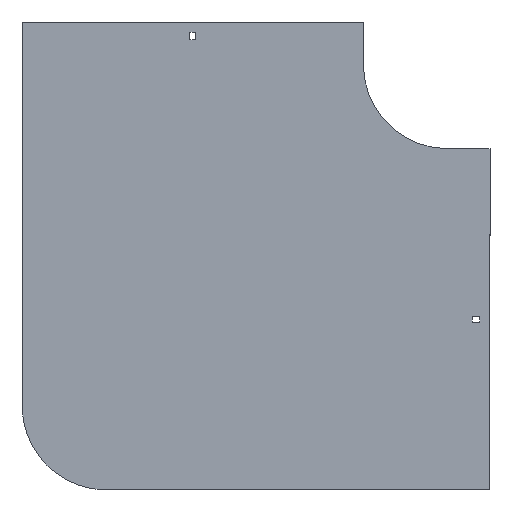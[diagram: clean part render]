
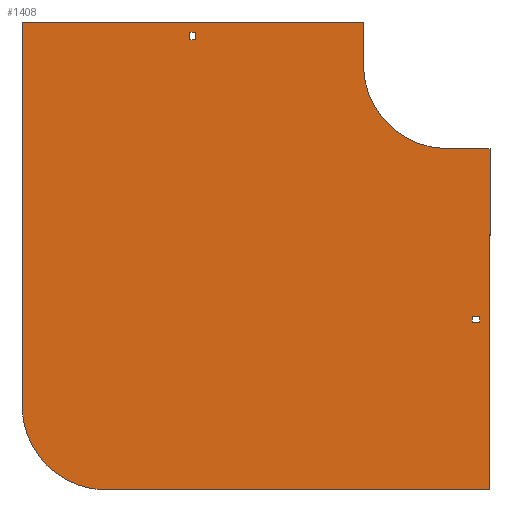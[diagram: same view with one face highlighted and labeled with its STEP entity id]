
A CAD part, front view. The second image highlights one B-rep face of the part: STEP entity #1408.
In plain terms, the highlighted planar face has unit normal (0, -1, 0).
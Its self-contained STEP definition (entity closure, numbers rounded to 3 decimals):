
#10 = VERTEX_POINT ( 'NONE', #506 ) ;
#51 = CARTESIAN_POINT ( 'NONE',  ( 38., 0., -298.75 ) ) ;
#70 = CARTESIAN_POINT ( 'NONE',  ( -404., 0., -404. ) ) ;
#108 = VERTEX_POINT ( 'NONE', #1904 ) ;
#109 = DIRECTION ( 'NONE',  ( -1., 0., 0. ) ) ;
#165 = ORIENTED_EDGE ( 'NONE', *, *, #548, .F. ) ;
#182 = ORIENTED_EDGE ( 'NONE', *, *, #720, .F. ) ;
#188 = VERTEX_POINT ( 'NONE', #1554 ) ;
#202 = LINE ( 'NONE', #979, #807 ) ;
#218 = EDGE_LOOP ( 'NONE', ( #182, #654, #1235, #931, #448, #732, #444, #769 ) ) ;
#235 = CARTESIAN_POINT ( 'NONE',  ( 0., 0., 0. ) ) ;
#267 = EDGE_CURVE ( 'NONE', #1619, #1256, #719, .T. ) ;
#270 = CARTESIAN_POINT ( 'NONE',  ( -298.75, 0., 29. ) ) ;
#287 = AXIS2_PLACEMENT_3D ( 'NONE', #1080, #296, #1670 ) ;
#292 = EDGE_CURVE ( 'NONE', #1179, #1190, #1358, .T. ) ;
#296 = DIRECTION ( 'NONE',  ( 0., -1., 0. ) ) ;
#304 = FACE_BOUND ( 'NONE', #1367, .T. ) ;
#338 = CARTESIAN_POINT ( 'NONE',  ( -305.25, 0., 29. ) ) ;
#340 = CARTESIAN_POINT ( 'NONE',  ( 29., 0., -305.25 ) ) ;
#355 = EDGE_CURVE ( 'NONE', #914, #188, #933, .T. ) ;
#359 = VECTOR ( 'NONE', #1734, 1000. ) ;
#360 = CARTESIAN_POINT ( 'NONE',  ( 0., 0., -100. ) ) ;
#444 = ORIENTED_EDGE ( 'NONE', *, *, #1043, .F. ) ;
#448 = ORIENTED_EDGE ( 'NONE', *, *, #1897, .F. ) ;
#457 = DIRECTION ( 'NONE',  ( 0., 0., 1. ) ) ;
#458 = LINE ( 'NONE', #608, #835 ) ;
#486 = AXIS2_PLACEMENT_3D ( 'NONE', #235, #1441, #1588 ) ;
#506 = CARTESIAN_POINT ( 'NONE',  ( 50., 0., -504. ) ) ;
#548 = EDGE_CURVE ( 'NONE', #1256, #1369, #996, .T. ) ;
#569 = ORIENTED_EDGE ( 'NONE', *, *, #1674, .T. ) ;
#571 = EDGE_CURVE ( 'NONE', #660, #914, #1702, .T. ) ;
#573 = CARTESIAN_POINT ( 'NONE',  ( 38., 0., -305.25 ) ) ;
#592 = DIRECTION ( 'NONE',  ( 0., 0., -1. ) ) ;
#596 = LINE ( 'NONE', #1204, #1870 ) ;
#608 = CARTESIAN_POINT ( 'NONE',  ( -504., 0., 50. ) ) ;
#609 = PLANE ( 'NONE',  #287 ) ;
#610 = DIRECTION ( 'NONE',  ( 1., 0., 0. ) ) ;
#611 = VECTOR ( 'NONE', #1170, 1000. ) ;
#636 = DIRECTION ( 'NONE',  ( 0., 0., -1. ) ) ;
#654 = ORIENTED_EDGE ( 'NONE', *, *, #678, .F. ) ;
#660 = VERTEX_POINT ( 'NONE', #270 ) ;
#678 = EDGE_CURVE ( 'NONE', #108, #1771, #988, .T. ) ;
#690 = DIRECTION ( 'NONE',  ( 0., 1., 0. ) ) ;
#719 = LINE ( 'NONE', #573, #1275 ) ;
#720 = EDGE_CURVE ( 'NONE', #1771, #1271, #458, .T. ) ;
#732 = ORIENTED_EDGE ( 'NONE', *, *, #292, .F. ) ;
#739 = VECTOR ( 'NONE', #748, 1000. ) ;
#748 = DIRECTION ( 'NONE',  ( -1., 0., 0. ) ) ;
#753 = VERTEX_POINT ( 'NONE', #1940 ) ;
#769 = ORIENTED_EDGE ( 'NONE', *, *, #805, .F. ) ;
#805 = EDGE_CURVE ( 'NONE', #1271, #753, #1206, .T. ) ;
#807 = VECTOR ( 'NONE', #1126, 1000. ) ;
#817 = CARTESIAN_POINT ( 'NONE',  ( 50., 0., -100. ) ) ;
#835 = VECTOR ( 'NONE', #1773, 1000. ) ;
#842 = EDGE_CURVE ( 'NONE', #1369, #1415, #1920, .T. ) ;
#879 = LINE ( 'NONE', #1609, #1390 ) ;
#894 = EDGE_CURVE ( 'NONE', #1415, #1619, #1034, .T. ) ;
#914 = VERTEX_POINT ( 'NONE', #1589 ) ;
#931 = ORIENTED_EDGE ( 'NONE', *, *, #1090, .F. ) ;
#933 = LINE ( 'NONE', #338, #1094 ) ;
#947 = DIRECTION ( 'NONE',  ( -1., 0., 0. ) ) ;
#961 = VECTOR ( 'NONE', #947, 1000. ) ;
#979 = CARTESIAN_POINT ( 'NONE',  ( 50., 0., -100. ) ) ;
#984 = ORIENTED_EDGE ( 'NONE', *, *, #1666, .T. ) ;
#988 = LINE ( 'NONE', #1152, #359 ) ;
#992 = ORIENTED_EDGE ( 'NONE', *, *, #355, .T. ) ;
#996 = LINE ( 'NONE', #1740, #739 ) ;
#1005 = VECTOR ( 'NONE', #636, 1000. ) ;
#1032 = CARTESIAN_POINT ( 'NONE',  ( 0., 0., -100. ) ) ;
#1034 = LINE ( 'NONE', #1214, #1857 ) ;
#1043 = EDGE_CURVE ( 'NONE', #753, #1179, #1491, .T. ) ;
#1067 = VERTEX_POINT ( 'NONE', #1259 ) ;
#1072 = FACE_OUTER_BOUND ( 'NONE', #218, .T. ) ;
#1080 = CARTESIAN_POINT ( 'NONE',  ( 0., 0., 0. ) ) ;
#1090 = EDGE_CURVE ( 'NONE', #10, #1929, #879, .T. ) ;
#1094 = VECTOR ( 'NONE', #1683, 1000. ) ;
#1103 = EDGE_LOOP ( 'NONE', ( #992, #984, #569, #1131 ) ) ;
#1116 = CARTESIAN_POINT ( 'NONE',  ( -305.25, 0., 29. ) ) ;
#1126 = DIRECTION ( 'NONE',  ( 0., 0., -1. ) ) ;
#1131 = ORIENTED_EDGE ( 'NONE', *, *, #571, .T. ) ;
#1143 = AXIS2_PLACEMENT_3D ( 'NONE', #70, #690, #1290 ) ;
#1152 = CARTESIAN_POINT ( 'NONE',  ( -504., 0., -404. ) ) ;
#1170 = DIRECTION ( 'NONE',  ( 1., 0., 0. ) ) ;
#1179 = VERTEX_POINT ( 'NONE', #360 ) ;
#1180 = CARTESIAN_POINT ( 'NONE',  ( 38., 0., -305.25 ) ) ;
#1190 = VERTEX_POINT ( 'NONE', #817 ) ;
#1204 = CARTESIAN_POINT ( 'NONE',  ( -305.25, 0., 38. ) ) ;
#1206 = LINE ( 'NONE', #1839, #1618 ) ;
#1214 = CARTESIAN_POINT ( 'NONE',  ( 29., 0., -305.25 ) ) ;
#1217 = LINE ( 'NONE', #1263, #1005 ) ;
#1222 = EDGE_CURVE ( 'NONE', #1929, #108, #1640, .T. ) ;
#1235 = ORIENTED_EDGE ( 'NONE', *, *, #1222, .F. ) ;
#1252 = CARTESIAN_POINT ( 'NONE',  ( -100., 0., 50. ) ) ;
#1256 = VERTEX_POINT ( 'NONE', #51 ) ;
#1259 = CARTESIAN_POINT ( 'NONE',  ( -298.75, 0., 38. ) ) ;
#1263 = CARTESIAN_POINT ( 'NONE',  ( -298.75, 0., 29. ) ) ;
#1271 = VERTEX_POINT ( 'NONE', #1252 ) ;
#1275 = VECTOR ( 'NONE', #457, 1000. ) ;
#1279 = VECTOR ( 'NONE', #592, 1000. ) ;
#1290 = DIRECTION ( 'NONE',  ( 0., 0., 1. ) ) ;
#1333 = CARTESIAN_POINT ( 'NONE',  ( -404., 0., -504. ) ) ;
#1358 = LINE ( 'NONE', #1032, #611 ) ;
#1367 = EDGE_LOOP ( 'NONE', ( #1509, #1893, #1629, #165 ) ) ;
#1369 = VERTEX_POINT ( 'NONE', #1892 ) ;
#1390 = VECTOR ( 'NONE', #109, 1000. ) ;
#1403 = DIRECTION ( 'NONE',  ( 0., 0., -1. ) ) ;
#1408 = ADVANCED_FACE ( 'NONE', ( #1810, #1072, #304 ), #609, .T. ) ;
#1415 = VERTEX_POINT ( 'NONE', #1522 ) ;
#1441 = DIRECTION ( 'NONE',  ( 0., -1., 0. ) ) ;
#1470 = DIRECTION ( 'NONE',  ( 1., 0., 0. ) ) ;
#1491 = CIRCLE ( 'NONE', #486, 100. ) ;
#1509 = ORIENTED_EDGE ( 'NONE', *, *, #267, .F. ) ;
#1522 = CARTESIAN_POINT ( 'NONE',  ( 29., 0., -305.25 ) ) ;
#1554 = CARTESIAN_POINT ( 'NONE',  ( -305.25, 0., 38. ) ) ;
#1588 = DIRECTION ( 'NONE',  ( 0., 0., -1. ) ) ;
#1589 = CARTESIAN_POINT ( 'NONE',  ( -305.25, 0., 29. ) ) ;
#1609 = CARTESIAN_POINT ( 'NONE',  ( 50., 0., -504. ) ) ;
#1618 = VECTOR ( 'NONE', #1403, 1000. ) ;
#1619 = VERTEX_POINT ( 'NONE', #1180 ) ;
#1629 = ORIENTED_EDGE ( 'NONE', *, *, #842, .F. ) ;
#1630 = CARTESIAN_POINT ( 'NONE',  ( -504., 0., 50. ) ) ;
#1640 = CIRCLE ( 'NONE', #1143, 100. ) ;
#1666 = EDGE_CURVE ( 'NONE', #188, #1067, #596, .T. ) ;
#1670 = DIRECTION ( 'NONE',  ( 0., 0., -1. ) ) ;
#1674 = EDGE_CURVE ( 'NONE', #1067, #660, #1217, .T. ) ;
#1683 = DIRECTION ( 'NONE',  ( 0., 0., 1. ) ) ;
#1702 = LINE ( 'NONE', #1116, #961 ) ;
#1734 = DIRECTION ( 'NONE',  ( 0., 0., 1. ) ) ;
#1740 = CARTESIAN_POINT ( 'NONE',  ( 29., 0., -298.75 ) ) ;
#1771 = VERTEX_POINT ( 'NONE', #1630 ) ;
#1773 = DIRECTION ( 'NONE',  ( 1., 0., 0. ) ) ;
#1810 = FACE_BOUND ( 'NONE', #1103, .T. ) ;
#1839 = CARTESIAN_POINT ( 'NONE',  ( -100., 0., 50. ) ) ;
#1857 = VECTOR ( 'NONE', #1470, 1000. ) ;
#1870 = VECTOR ( 'NONE', #610, 1000. ) ;
#1892 = CARTESIAN_POINT ( 'NONE',  ( 29., 0., -298.75 ) ) ;
#1893 = ORIENTED_EDGE ( 'NONE', *, *, #894, .F. ) ;
#1897 = EDGE_CURVE ( 'NONE', #1190, #10, #202, .T. ) ;
#1904 = CARTESIAN_POINT ( 'NONE',  ( -504., 0., -404. ) ) ;
#1920 = LINE ( 'NONE', #340, #1279 ) ;
#1929 = VERTEX_POINT ( 'NONE', #1333 ) ;
#1940 = CARTESIAN_POINT ( 'NONE',  ( -100., 0., 0. ) ) ;
